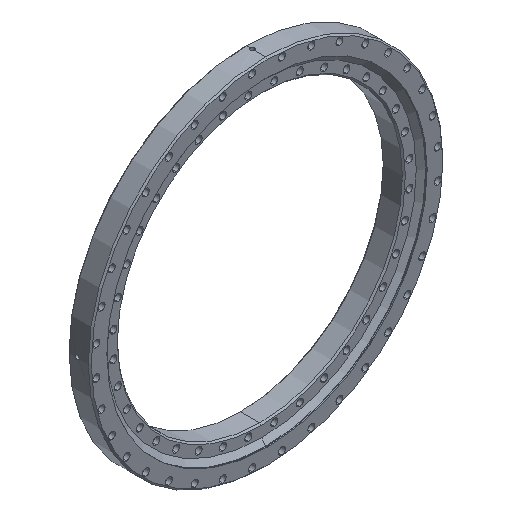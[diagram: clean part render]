
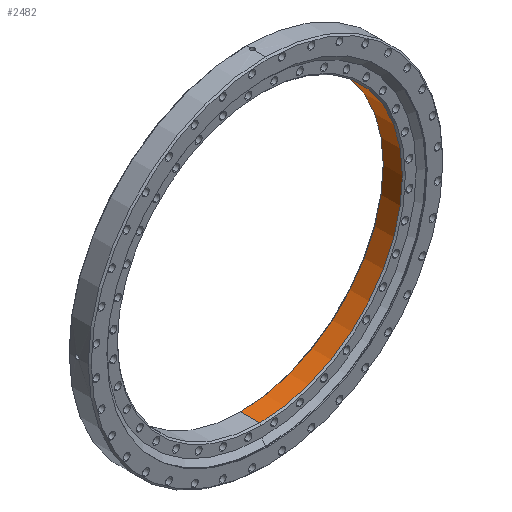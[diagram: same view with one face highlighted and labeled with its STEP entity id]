
A CAD part, isometric view. The second image highlights one B-rep face of the part: STEP entity #2482.
In plain terms, the highlighted cylindrical face has radius 287 mm (diameter 574 mm), a partial arc.
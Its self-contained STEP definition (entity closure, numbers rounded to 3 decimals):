
#235 = ORIENTED_EDGE ( 'NONE', *, *, #6952, .T. ) ;
#572 = ORIENTED_EDGE ( 'NONE', *, *, #2817, .T. ) ;
#650 = DIRECTION ( 'NONE',  ( 0., 1., 0. ) ) ;
#1008 = LINE ( 'NONE', #5045, #2368 ) ;
#1121 = CARTESIAN_POINT ( 'NONE',  ( 0., -19.25, -287. ) ) ;
#1515 = VECTOR ( 'NONE', #6140, 1000. ) ;
#1620 = DIRECTION ( 'NONE',  ( 0., -1., 0. ) ) ;
#1735 = EDGE_CURVE ( 'NONE', #5792, #7182, #1008, .T. ) ;
#1809 = EDGE_CURVE ( 'NONE', #5301, #7182, #2013, .T. ) ;
#2013 = CIRCLE ( 'NONE', #3993, 287. ) ;
#2045 = ORIENTED_EDGE ( 'NONE', *, *, #1735, .F. ) ;
#2157 = CARTESIAN_POINT ( 'NONE',  ( 0., 0., -287. ) ) ;
#2158 = CYLINDRICAL_SURFACE ( 'NONE', #3584, 287. ) ;
#2249 = CIRCLE ( 'NONE', #2279, 287. ) ;
#2279 = AXIS2_PLACEMENT_3D ( 'NONE', #4086, #650, #4647 ) ;
#2368 = VECTOR ( 'NONE', #1620, 1000. ) ;
#2482 = ADVANCED_FACE ( 'NONE', ( #3857 ), #2158, .F. ) ;
#2517 = DIRECTION ( 'NONE',  ( 0., -1., 0. ) ) ;
#2679 = VERTEX_POINT ( 'NONE', #2684 ) ;
#2684 = CARTESIAN_POINT ( 'NONE',  ( 0., 19.25, -287. ) ) ;
#2817 = EDGE_CURVE ( 'NONE', #5792, #2679, #2249, .T. ) ;
#3435 = CARTESIAN_POINT ( 'NONE',  ( 0., -19.25, 0. ) ) ;
#3584 = AXIS2_PLACEMENT_3D ( 'NONE', #3672, #2517, #7071 ) ;
#3672 = CARTESIAN_POINT ( 'NONE',  ( 0., 0., 0. ) ) ;
#3857 = FACE_OUTER_BOUND ( 'NONE', #4929, .T. ) ;
#3993 = AXIS2_PLACEMENT_3D ( 'NONE', #3435, #7397, #4000 ) ;
#4000 = DIRECTION ( 'NONE',  ( 0., 0., 1. ) ) ;
#4086 = CARTESIAN_POINT ( 'NONE',  ( 0., 19.25, 0. ) ) ;
#4647 = DIRECTION ( 'NONE',  ( 0., 0., -1. ) ) ;
#4929 = EDGE_LOOP ( 'NONE', ( #2045, #572, #235, #7294 ) ) ;
#5045 = CARTESIAN_POINT ( 'NONE',  ( 0., 0., 287. ) ) ;
#5296 = CARTESIAN_POINT ( 'NONE',  ( 0., 19.25, 287. ) ) ;
#5301 = VERTEX_POINT ( 'NONE', #1121 ) ;
#5737 = CARTESIAN_POINT ( 'NONE',  ( 0., -19.25, 287. ) ) ;
#5792 = VERTEX_POINT ( 'NONE', #5296 ) ;
#6140 = DIRECTION ( 'NONE',  ( 0., -1., 0. ) ) ;
#6426 = LINE ( 'NONE', #2157, #1515 ) ;
#6952 = EDGE_CURVE ( 'NONE', #2679, #5301, #6426, .T. ) ;
#7071 = DIRECTION ( 'NONE',  ( 0., 0., -1. ) ) ;
#7182 = VERTEX_POINT ( 'NONE', #5737 ) ;
#7294 = ORIENTED_EDGE ( 'NONE', *, *, #1809, .T. ) ;
#7397 = DIRECTION ( 'NONE',  ( 0., -1., 0. ) ) ;
